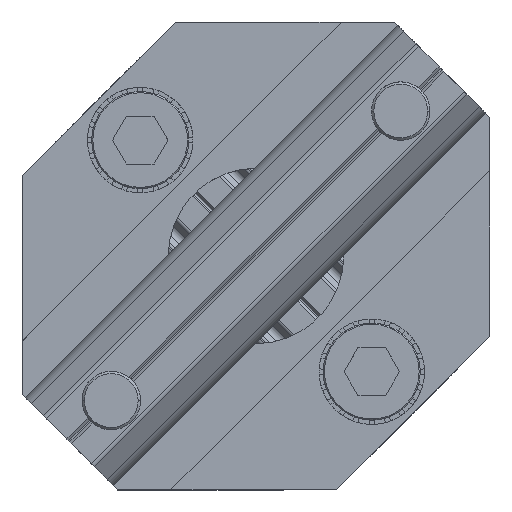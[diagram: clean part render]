
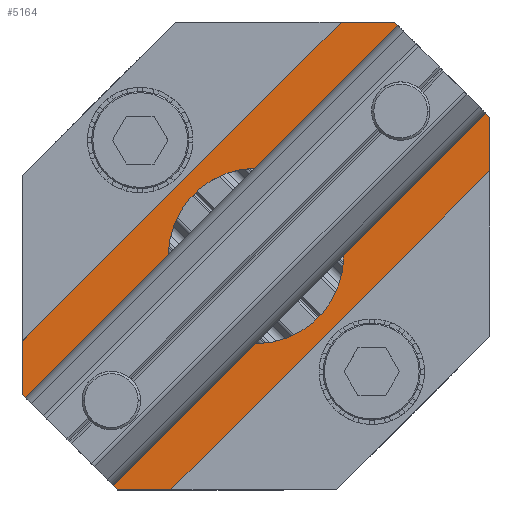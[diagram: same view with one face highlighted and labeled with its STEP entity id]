
A CAD part, top view. The second image highlights one B-rep face of the part: STEP entity #5164.
In plain terms, the highlighted planar face has unit normal (0, 0, 1).
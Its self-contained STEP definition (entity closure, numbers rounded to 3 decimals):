
#4 = EDGE_LOOP ( 'NONE', ( #4927, #4596 ) ) ;
#111 = DIRECTION ( 'NONE',  ( 0., 0., -1. ) ) ;
#133 = EDGE_LOOP ( 'NONE', ( #6492, #3704 ) ) ;
#242 = DIRECTION ( 'NONE',  ( 0., -1., 0. ) ) ;
#289 = ORIENTED_EDGE ( 'NONE', *, *, #5508, .F. ) ;
#309 = LINE ( 'NONE', #5364, #7165 ) ;
#556 = CARTESIAN_POINT ( 'NONE',  ( 3.003, -13.444, -0.413 ) ) ;
#639 = DIRECTION ( 'NONE',  ( -1., 0., 0. ) ) ;
#721 = VERTEX_POINT ( 'NONE', #3334 ) ;
#741 = EDGE_CURVE ( 'NONE', #10977, #10098, #4958, .T. ) ;
#779 = EDGE_CURVE ( 'NONE', #8486, #1153, #6467, .T. ) ;
#813 = EDGE_CURVE ( 'NONE', #3550, #10416, #8474, .T. ) ;
#912 = EDGE_CURVE ( 'NONE', #1389, #1156, #9920, .T. ) ;
#983 = CARTESIAN_POINT ( 'NONE',  ( -16.241, -5.819, -0.413 ) ) ;
#1153 = VERTEX_POINT ( 'NONE', #11100 ) ;
#1156 = VERTEX_POINT ( 'NONE', #8324 ) ;
#1334 = EDGE_CURVE ( 'NONE', #5155, #3970, #5896, .T. ) ;
#1389 = VERTEX_POINT ( 'NONE', #6569 ) ;
#1392 = DIRECTION ( 'NONE',  ( 0., 1., 0. ) ) ;
#1493 = ORIENTED_EDGE ( 'NONE', *, *, #3348, .T. ) ;
#1495 = VECTOR ( 'NONE', #10454, 1000. ) ;
#1852 = DIRECTION ( 'NONE',  ( -1., 0., 0. ) ) ;
#1999 = DIRECTION ( 'NONE',  ( -1., 0., 0. ) ) ;
#2299 = CARTESIAN_POINT ( 'NONE',  ( 3.405, 26.556, -0.413 ) ) ;
#2379 = CARTESIAN_POINT ( 'NONE',  ( 16.133, 18.375, -0.413 ) ) ;
#2385 = CARTESIAN_POINT ( 'NONE',  ( -11.139, -13.444, -0.413 ) ) ;
#2512 = CARTESIAN_POINT ( 'NONE',  ( -3.867, 6.556, -0.413 ) ) ;
#2539 = VECTOR ( 'NONE', #1392, 1000. ) ;
#2735 = FACE_BOUND ( 'NONE', #133, .T. ) ;
#2776 = LINE ( 'NONE', #556, #9350 ) ;
#2806 = DIRECTION ( 'NONE',  ( -0.707, 0.707, 0. ) ) ;
#2855 = EDGE_LOOP ( 'NONE', ( #8774, #1493 ) ) ;
#2923 = CIRCLE ( 'NONE', #3090, 7.5 ) ;
#3090 = AXIS2_PLACEMENT_3D ( 'NONE', #2512, #8489, #3340 ) ;
#3093 = PLANE ( 'NONE',  #9068 ) ;
#3165 = DIRECTION ( 'NONE',  ( 0., 0., -1. ) ) ;
#3334 = CARTESIAN_POINT ( 'NONE',  ( -23.867, -0.716, -0.413 ) ) ;
#3340 = DIRECTION ( 'NONE',  ( -1., 0., 0. ) ) ;
#3348 = EDGE_CURVE ( 'NONE', #10098, #10977, #4782, .T. ) ;
#3533 = CARTESIAN_POINT ( 'NONE',  ( -18.791, -5.819, -0.413 ) ) ;
#3550 = VERTEX_POINT ( 'NONE', #5173 ) ;
#3575 = VECTOR ( 'NONE', #2806, 1000. ) ;
#3599 = EDGE_CURVE ( 'NONE', #10667, #8813, #8681, .T. ) ;
#3704 = ORIENTED_EDGE ( 'NONE', *, *, #3599, .T. ) ;
#3886 = VECTOR ( 'NONE', #8529, 1000. ) ;
#3942 = DIRECTION ( 'NONE',  ( 0., 0., -1. ) ) ;
#3970 = VERTEX_POINT ( 'NONE', #2385 ) ;
#4114 = DIRECTION ( 'NONE',  ( 1., 0., 0. ) ) ;
#4230 = AXIS2_PLACEMENT_3D ( 'NONE', #983, #6988, #1852 ) ;
#4447 = CARTESIAN_POINT ( 'NONE',  ( 3.405, 26.556, -0.413 ) ) ;
#4596 = ORIENTED_EDGE ( 'NONE', *, *, #6919, .T. ) ;
#4597 = CARTESIAN_POINT ( 'NONE',  ( -3.867, 6.556, -0.413 ) ) ;
#4614 = VERTEX_POINT ( 'NONE', #2379 ) ;
#4782 = CIRCLE ( 'NONE', #6741, 2.55 ) ;
#4829 = CARTESIAN_POINT ( 'NONE',  ( 5.957, 18.93, -0.413 ) ) ;
#4915 = EDGE_CURVE ( 'NONE', #4614, #5155, #309, .T. ) ;
#4927 = ORIENTED_EDGE ( 'NONE', *, *, #813, .T. ) ;
#4952 = DIRECTION ( 'NONE',  ( -1., 0., 0. ) ) ;
#4958 = CIRCLE ( 'NONE', #7590, 2.55 ) ;
#5077 = DIRECTION ( 'NONE',  ( 0.707, -0.707, 0. ) ) ;
#5155 = VERTEX_POINT ( 'NONE', #7348 ) ;
#5164 = ADVANCED_FACE ( 'NONE', ( #7294, #2735, #10090, #7018 ), #3093, .F. ) ;
#5173 = CARTESIAN_POINT ( 'NONE',  ( -11.367, 6.556, -0.413 ) ) ;
#5229 = CARTESIAN_POINT ( 'NONE',  ( -16.241, -5.819, -0.413 ) ) ;
#5316 = LINE ( 'NONE', #5515, #2539 ) ;
#5364 = CARTESIAN_POINT ( 'NONE',  ( 16.133, 26.556, -0.413 ) ) ;
#5471 = CARTESIAN_POINT ( 'NONE',  ( -11.139, -13.444, -0.413 ) ) ;
#5479 = EDGE_CURVE ( 'NONE', #8813, #10667, #10879, .T. ) ;
#5508 = EDGE_CURVE ( 'NONE', #721, #8486, #5793, .T. ) ;
#5515 = CARTESIAN_POINT ( 'NONE',  ( -23.867, -13.444, -0.413 ) ) ;
#5793 = LINE ( 'NONE', #4447, #1495 ) ;
#5896 = LINE ( 'NONE', #5471, #3886 ) ;
#6112 = CARTESIAN_POINT ( 'NONE',  ( -15.687, -13.444, -0.413 ) ) ;
#6122 = DIRECTION ( 'NONE',  ( -1., 0., 0. ) ) ;
#6198 = EDGE_LOOP ( 'NONE', ( #7007, #8160, #8363, #8791, #7005, #9612, #8912, #289 ) ) ;
#6467 = LINE ( 'NONE', #9261, #10728 ) ;
#6485 = CARTESIAN_POINT ( 'NONE',  ( -13.691, -5.819, -0.413 ) ) ;
#6492 = ORIENTED_EDGE ( 'NONE', *, *, #5479, .T. ) ;
#6569 = CARTESIAN_POINT ( 'NONE',  ( -23.867, -5.264, -0.413 ) ) ;
#6599 = EDGE_CURVE ( 'NONE', #4614, #1153, #8438, .T. ) ;
#6721 = EDGE_CURVE ( 'NONE', #1389, #721, #5316, .T. ) ;
#6741 = AXIS2_PLACEMENT_3D ( 'NONE', #8312, #3165, #9160 ) ;
#6919 = EDGE_CURVE ( 'NONE', #10416, #3550, #2923, .T. ) ;
#6975 = CARTESIAN_POINT ( 'NONE',  ( 3.633, 6.556, -0.413 ) ) ;
#6988 = DIRECTION ( 'NONE',  ( 0., 0., -1. ) ) ;
#7005 = ORIENTED_EDGE ( 'NONE', *, *, #4915, .F. ) ;
#7007 = ORIENTED_EDGE ( 'NONE', *, *, #6721, .F. ) ;
#7018 = FACE_OUTER_BOUND ( 'NONE', #6198, .T. ) ;
#7165 = VECTOR ( 'NONE', #242, 1000. ) ;
#7281 = CARTESIAN_POINT ( 'NONE',  ( 11.057, 18.93, -0.413 ) ) ;
#7294 = FACE_BOUND ( 'NONE', #2855, .T. ) ;
#7348 = CARTESIAN_POINT ( 'NONE',  ( 16.133, 13.828, -0.413 ) ) ;
#7381 = CARTESIAN_POINT ( 'NONE',  ( 0., 0., -0.413 ) ) ;
#7590 = AXIS2_PLACEMENT_3D ( 'NONE', #10873, #10058, #4952 ) ;
#7668 = VECTOR ( 'NONE', #5077, 1000. ) ;
#7732 = EDGE_CURVE ( 'NONE', #3970, #1156, #2776, .T. ) ;
#7924 = CARTESIAN_POINT ( 'NONE',  ( 7.953, 26.556, -0.413 ) ) ;
#8160 = ORIENTED_EDGE ( 'NONE', *, *, #912, .T. ) ;
#8312 = CARTESIAN_POINT ( 'NONE',  ( 8.507, 18.93, -0.413 ) ) ;
#8324 = CARTESIAN_POINT ( 'NONE',  ( -15.687, -13.444, -0.413 ) ) ;
#8363 = ORIENTED_EDGE ( 'NONE', *, *, #7732, .F. ) ;
#8438 = LINE ( 'NONE', #7924, #3575 ) ;
#8474 = CIRCLE ( 'NONE', #10998, 7.5 ) ;
#8486 = VERTEX_POINT ( 'NONE', #2299 ) ;
#8489 = DIRECTION ( 'NONE',  ( 0., 0., -1. ) ) ;
#8529 = DIRECTION ( 'NONE',  ( -0.707, -0.707, 0. ) ) ;
#8681 = CIRCLE ( 'NONE', #8848, 2.55 ) ;
#8774 = ORIENTED_EDGE ( 'NONE', *, *, #741, .T. ) ;
#8791 = ORIENTED_EDGE ( 'NONE', *, *, #1334, .F. ) ;
#8813 = VERTEX_POINT ( 'NONE', #3533 ) ;
#8848 = AXIS2_PLACEMENT_3D ( 'NONE', #5229, #111, #6122 ) ;
#8912 = ORIENTED_EDGE ( 'NONE', *, *, #779, .F. ) ;
#9068 = AXIS2_PLACEMENT_3D ( 'NONE', #7381, #3942, #9933 ) ;
#9160 = DIRECTION ( 'NONE',  ( -1., 0., 0. ) ) ;
#9261 = CARTESIAN_POINT ( 'NONE',  ( -10.737, 26.556, -0.413 ) ) ;
#9350 = VECTOR ( 'NONE', #639, 1000. ) ;
#9612 = ORIENTED_EDGE ( 'NONE', *, *, #6599, .T. ) ;
#9920 = LINE ( 'NONE', #6112, #7668 ) ;
#9933 = DIRECTION ( 'NONE',  ( -1., 0., 0. ) ) ;
#10058 = DIRECTION ( 'NONE',  ( 0., 0., -1. ) ) ;
#10090 = FACE_BOUND ( 'NONE', #4, .T. ) ;
#10098 = VERTEX_POINT ( 'NONE', #7281 ) ;
#10416 = VERTEX_POINT ( 'NONE', #6975 ) ;
#10454 = DIRECTION ( 'NONE',  ( 0.707, 0.707, 0. ) ) ;
#10483 = DIRECTION ( 'NONE',  ( 0., 0., -1. ) ) ;
#10667 = VERTEX_POINT ( 'NONE', #6485 ) ;
#10728 = VECTOR ( 'NONE', #4114, 1000. ) ;
#10873 = CARTESIAN_POINT ( 'NONE',  ( 8.507, 18.93, -0.413 ) ) ;
#10879 = CIRCLE ( 'NONE', #4230, 2.55 ) ;
#10977 = VERTEX_POINT ( 'NONE', #4829 ) ;
#10998 = AXIS2_PLACEMENT_3D ( 'NONE', #4597, #10483, #1999 ) ;
#11100 = CARTESIAN_POINT ( 'NONE',  ( 7.953, 26.556, -0.413 ) ) ;
